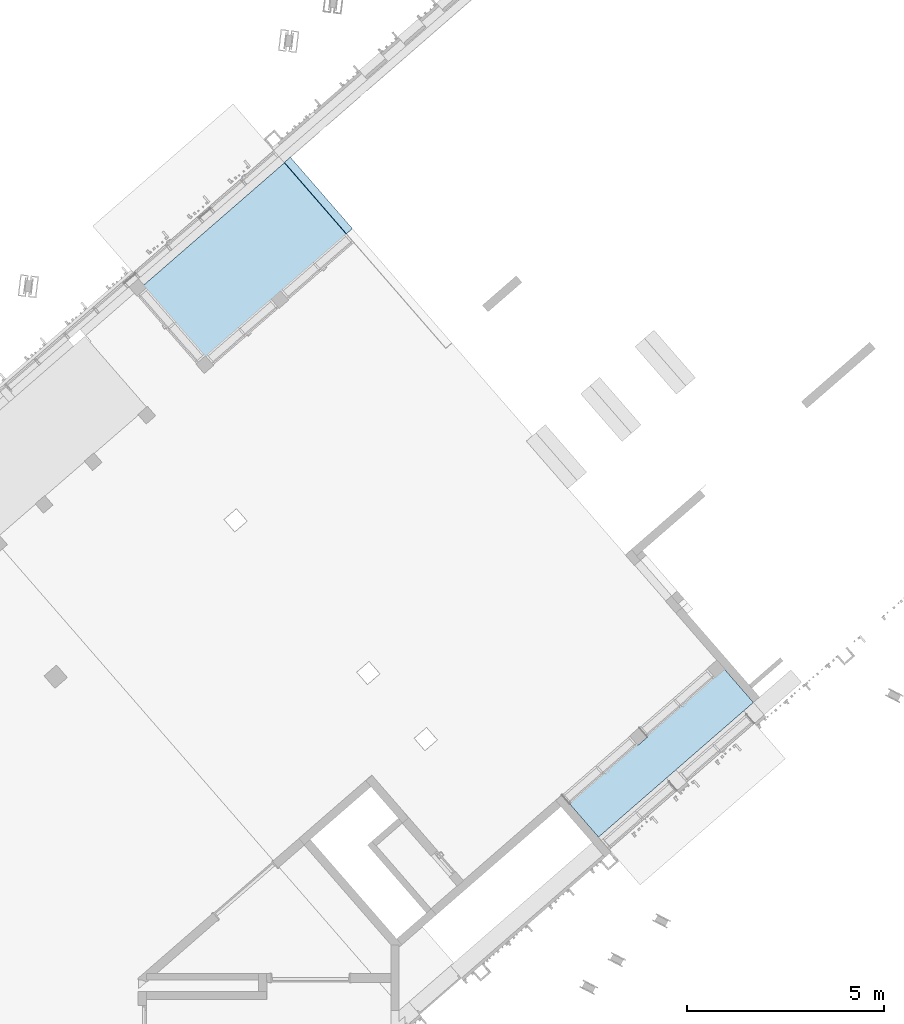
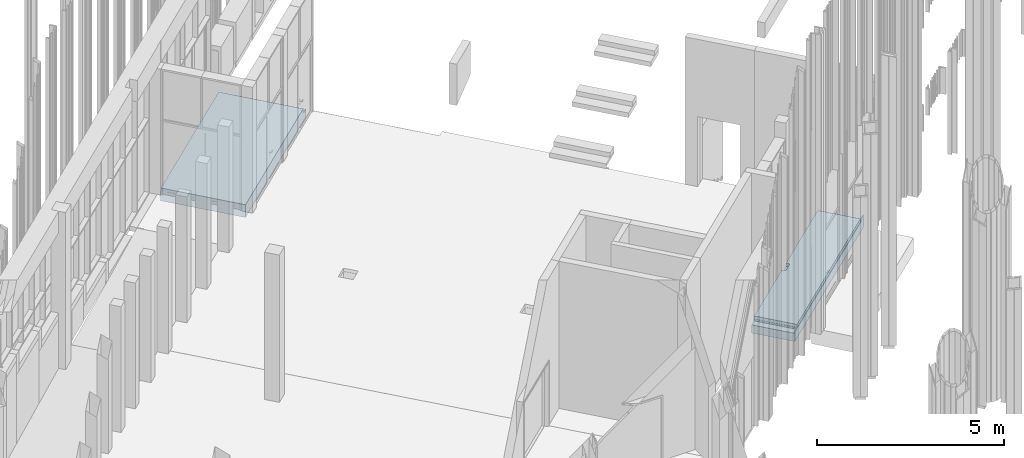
# One storey, part 81 of 390: 2 slabs.
"""IFC2X3 building model written with IfcOpenShell, lengths in millimetres."""

from ifc_helpers import new_model, entity, si_unit, converted_unit, derived_unit, money_unit, direction, frame, origin_with_axes, place, context, subcontext, project, spatial, faceted_brep, material, material_list, type_object, element, save


model = new_model("IFC2X3")

# Units and contexts
model_context = context("Model", 3, precision=1e-05, world=origin_with_axes(), true_north=direction((0.0, 1.0)))
body_context = subcontext(model_context, "Body", "Model", "MODEL_VIEW")
ifc_project = project(units=[si_unit("LENGTHUNIT", "METRE", prefix="MILLI"), si_unit("AREAUNIT", "SQUARE_METRE"), si_unit("VOLUMEUNIT", "CUBIC_METRE"), converted_unit("PLANEANGLEUNIT", "DEGREE", entity("IfcPlaneAngleMeasure", 0.0174532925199), si_unit("PLANEANGLEUNIT", "RADIAN"), dimensions=[0, 0, 0, 0, 0, 0, 0]), si_unit("SOLIDANGLEUNIT", "STERADIAN"), money_unit("EUR"), converted_unit("TIMEUNIT", "Year", entity("IfcTimeMeasure", 31556926.0), si_unit("TIMEUNIT", "SECOND"), dimensions=[0, 0, 1, 0, 0, 0, 0]), si_unit("MASSUNIT", "GRAM", prefix="KILO"), si_unit("THERMODYNAMICTEMPERATUREUNIT", "DEGREE_CELSIUS"), si_unit("LUMINOUSINTENSITYUNIT", "LUMEN"), si_unit("ENERGYUNIT", "JOULE", prefix="MEGA"), derived_unit("THERMALCONDUCTANCEUNIT", [(si_unit("POWERUNIT", "WATT"), 1), (si_unit("LENGTHUNIT", "METRE"), -1), (si_unit("THERMODYNAMICTEMPERATUREUNIT", "KELVIN"), -1)]), derived_unit("SPECIFICHEATCAPACITYUNIT", [(si_unit("ENERGYUNIT", "JOULE"), 1), (si_unit("MASSUNIT", "GRAM", prefix="KILO"), -1), (si_unit("THERMODYNAMICTEMPERATUREUNIT", "KELVIN"), -1)]), derived_unit("MASSDENSITYUNIT", [(si_unit("MASSUNIT", "GRAM", prefix="KILO"), 1), (si_unit("VOLUMEUNIT", "CUBIC_METRE"), -1)])], contexts=[model_context])

# Site, building, storey
site_placement = place(None, origin_with_axes())
site = spatial("IfcSite", under=ifc_project, at=site_placement, Name="Site", CompositionType="ELEMENT")
building_placement = place(site_placement, origin_with_axes())
building = spatial("IfcBuilding", under=site, at=building_placement, Name="Building", CompositionType="ELEMENT")
storey_placement = place(building_placement, origin_with_axes())
storey = spatial("IfcBuildingStorey", under=building, at=storey_placement, Name="1 korrus", CompositionType="ELEMENT", Elevation=0.0)

# Slabs
ifc_material_1 = material(Name="Puit - Põrand")
ifc_material_2 = material(Name="Betoon")
ifc_material_3 = material(Name="00_mineraalvillaplaat - jäik")
ifc_material_4 = material(Name="Soojustus - Plastik Kõva")
ifc_material_5 = material(Name="Raudbetoon - Konstruktsioon")
ifc_material_list_1 = material_list([ifc_material_1, ifc_material_1, ifc_material_2, ifc_material_2, ifc_material_3, ifc_material_4, ifc_material_5])
slab_type = type_object("IfcSlabType", Name="VL-01", PredefinedType="FLOOR")
slab_1_placement = place(storey_placement, frame((143603.283695, 71757.9693438, 0.0), z_axis=(0.0, 0.0, 1.0), x_axis=(1.0, 0.0, 0.0)))
element("IfcSlab", 1, at=slab_1_placement, inside=storey, type_object=slab_type, material=ifc_material_list_1, Name="VL-01", PredefinedType="FLOOR", context=body_context, shape_type="Brep", body=[
    faceted_brep([(1951.3932173, 1550.56882359, 0.0), (1879.22672718, 1633.58687454, 0.0), (158.489011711, 137.772396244, 0.0), (952.322193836, -775.427922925, 0.0), (944.77599639, -781.989789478, 0.0), (952.323296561, -775.429029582, 0.0), (2672.6396844, 720.017356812, 0.0), (2914.1468785, 929.956100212, 0.0), (4635.30764315, 2426.13649127, 0.0), (4880.58846686, 2639.35559682, 0.0), (4086.75233108, 3552.55960921, 0.0), (2120.73379264, 1843.52576405, 0.0), (2192.90028379, 1760.50771192, 0.0), (1951.3932173, 1550.56882359, -20.0), (1879.22672718, 1633.58687454, -20.0), (158.489011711, 137.772396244, -20.0), (952.321973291, -775.427701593, -20.0), (944.773444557, -781.986853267, -20.0), (4880.58846686, 2639.35559682, -20.0), (4086.75233108, 3552.55960921, -20.0), (2120.73379264, 1843.52576405, -20.0), (2192.90028379, 1760.50771192, -20.0)], [[[0, 1, 2, 3, 4, 5, 6, 7, 8, 9, 10, 11, 12]], [[1, 0, 13, 14]], [[1, 14, 15, 2]], [[15, 16, 3, 2]], [[16, 17, 4, 3]], [[17, 18, 9, 8, 7, 6, 5, 4]], [[10, 9, 18, 19]], [[20, 11, 10, 19]], [[12, 11, 20, 21]], [[0, 12, 21, 13]], [[21, 20, 19, 18, 17, 16, 15, 14, 13]]]),
    faceted_brep([(4880.58846686, 2639.35559682, 0.0), (4887.14905257, 2631.80849703, 0.0), (5045.63344507, 2769.58622249, 0.0), (5039.0728519, 2777.13331535, 0.0), (4887.14905257, 2631.80849703, -20.0), (4880.58846686, 2639.35559682, -20.0), (5045.63344507, 2769.58622249, -20.0), (5039.0728519, 2777.13331535, -20.0)], [[[0, 1, 2, 3]], [[4, 1, 0, 5]], [[1, 4, 6, 2]], [[7, 3, 2, 6]], [[5, 0, 3, 7]], [[4, 5, 7, 6]]]),
    faceted_brep([(1951.3932173, 1550.56882359, -20.0), (1879.22672718, 1633.58687454, -20.0), (158.489011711, 137.772396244, -20.0), (952.321973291, -775.427701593, -20.0), (944.77599639, -781.989789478, -20.0), (4880.58846686, 2639.35559682, -20.0), (4086.75233108, 3552.55960921, -20.0), (2120.73379264, 1843.52576405, -20.0), (2192.90028379, 1760.50771192, -20.0), (1951.3932173, 1550.56882359, -100.0), (1879.22672718, 1633.58687454, -100.0), (158.489011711, 137.772396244, -100.0), (952.321091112, -775.426816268, -100.0), (944.773444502, -781.986853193, -99.9999991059), (4880.58846686, 2639.35559682, -100.0), (4086.75233108, 3552.55960921, -100.0), (2120.73379264, 1843.52576405, -100.0), (2192.90028379, 1760.50771192, -100.0)], [[[0, 1, 2, 3, 4, 5, 6, 7, 8]], [[1, 0, 9, 10]], [[1, 10, 11, 2]], [[11, 12, 3, 2]], [[12, 13, 4, 3]], [[13, 14, 5, 4]], [[6, 5, 14, 15]], [[16, 7, 6, 15]], [[8, 7, 16, 17]], [[0, 8, 17, 9]], [[17, 16, 15, 14, 13, 12, 11, 10, 9]]]),
    faceted_brep([(4880.58846686, 2639.35559682, -20.0), (4887.14905257, 2631.80849703, -20.0), (5045.63344507, 2769.58622249, -20.0), (5039.0728519, 2777.13331535, -20.0), (4887.14905257, 2631.80849703, -100.0), (4880.58846686, 2639.35559682, -100.0), (5045.63344507, 2769.58622249, -100.0), (5039.0728519, 2777.13331535, -100.0)], [[[0, 1, 2, 3]], [[4, 1, 0, 5]], [[1, 4, 6, 2]], [[7, 3, 2, 6]], [[5, 0, 3, 7]], [[4, 5, 7, 6]]]),
    faceted_brep([(944.773444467, -781.986853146, -99.9999991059), (793.831531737, -913.198663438, -99.9999991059), (800.392117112, -920.745753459, -100.0), (5045.63344507, 2769.58622249, -100.0), (5039.0728519, 2777.13331535, -100.0), (4888.13093576, 2645.92150966, -100.0), (4094.29942688, 3559.12019951, -100.0), (150.941915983, 131.211806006, -100.0), (944.773444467, -781.986853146, -130.0), (793.831531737, -913.198663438, -130.0), (800.392117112, -920.745753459, -130.0), (5045.63344507, 2769.58622249, -130.0), (5039.0728519, 2777.13331535, -130.0), (4888.13093576, 2645.92150966, -130.0), (4094.29942688, 3559.12019951, -130.0), (150.941915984, 131.211806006, -130.0)], [[[0, 1, 2, 3, 4, 5, 6, 7]], [[1, 0, 8, 9]], [[1, 9, 10, 2]], [[10, 11, 3, 2]], [[12, 4, 3, 11]], [[5, 4, 12, 13]], [[6, 5, 13, 14]], [[15, 7, 6, 14]], [[0, 7, 15, 8]], [[8, 15, 14, 13, 12, 11, 10, 9]]]),
    faceted_brep([(944.773444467, -781.986853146, -130.0), (793.831531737, -913.198663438, -130.0), (800.392117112, -920.745753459, -130.0), (5045.63344507, 2769.58622249, -130.0), (5039.0728519, 2777.13331535, -130.0), (4888.13093576, 2645.92150966, -130.0), (4094.29942688, 3559.12019951, -130.0), (150.941915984, 131.211806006, -130.0), (944.773444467, -781.986853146, -150.0), (793.831531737, -913.198663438, -150.0), (800.392117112, -920.745753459, -150.0), (5045.63344507, 2769.58622249, -150.0), (5039.0728519, 2777.13331535, -150.0), (4888.13093576, 2645.92150966, -150.0), (4094.29942688, 3559.12019951, -150.0), (150.941915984, 131.211806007, -150.0)], [[[0, 1, 2, 3, 4, 5, 6, 7]], [[1, 0, 8, 9]], [[1, 9, 10, 2]], [[10, 11, 3, 2]], [[12, 4, 3, 11]], [[5, 4, 12, 13]], [[6, 5, 13, 14]], [[15, 7, 6, 14]], [[0, 7, 15, 8]], [[8, 15, 14, 13, 12, 11, 10, 9]]]),
    faceted_brep([(0.0, 0.0, -415.0), (800.392117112, -920.745753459, -415.0), (800.392117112, -920.745753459, -150.0), (0.0, 0.0, -150.0), (4245.24134377, 3690.33200631, -415.0), (5045.63344507, 2769.58622249, -415.0), (5045.63344507, 2769.58622249, -150.0), (4245.24134377, 3690.33200631, -150.0)], [[[0, 1, 2, 3]], [[0, 4, 5, 1]], [[1, 5, 6, 2]], [[3, 2, 6, 7]], [[4, 0, 3, 7]], [[5, 4, 7, 6]]]),
])
ifc_material_list_2 = material_list([ifc_material_1, ifc_material_2, ifc_material_3, ifc_material_4, ifc_material_5])
slab_2_placement = place(storey_placement, frame((134587.722026, 83173.300017, 0.0), z_axis=(0.0, 0.0, 1.0), x_axis=(1.0, 0.0, 0.0)))
element("IfcSlab", 2, at=slab_2_placement, inside=storey, type_object=slab_type, material=ifc_material_list_2, Name="VL-01", PredefinedType="FLOOR", context=body_context, shape_type="Brep", body=[
    faceted_brep([(3569.7763125, 3103.15919964, -20.0), (2001.79522548, 4906.91504303, -20.0), (2001.79522548, 4906.91504303, 0.000199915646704), (3569.7763125, 3103.15919964, -4.4751757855e-07), (0.0, 0.0, -20.0), (-1567.90426692, 1803.82251817, -20.0), (-1567.90426692, 1803.82251817, 0.000199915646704), (0.0, 0.0, 0.0)], [[[0, 1, 2, 3]], [[4, 5, 1, 0]], [[5, 6, 2, 1]], [[3, 2, 6, 7]], [[4, 0, 3, 7]], [[7, 6, 5, 4]]]),
    faceted_brep([(2001.79522548, 4906.91504303, -100.0), (2001.79522548, 4906.91504303, -20.0), (3569.7763125, 3103.15919964, -20.0), (3569.7763125, 3103.15919964, -100.0), (-1567.90426692, 1803.82251817, -20.0), (-1567.90426692, 1803.82251817, -100.0), (0.0, 0.0, -20.0), (0.0, 0.0, -100.0)], [[[0, 1, 2, 3]], [[4, 1, 0, 5]], [[1, 4, 6, 2]], [[3, 2, 6, 7]], [[5, 0, 3, 7]], [[4, 5, 7, 6]]]),
    faceted_brep([(3577.32340376, 3109.71978597, -130.0), (3577.32340376, 3109.71978597, -100.0), (0.0, 0.0, -100.0), (0.0, 0.0, -130.0), (2002.78182328, 4921.02262615, -100.0), (2002.7818234, 4921.02262625, -130.0), (-1574.4644806, 1811.36982919, -100.0), (-1574.4644806, 1811.36982919, -130.0)], [[[0, 1, 2, 3]], [[4, 1, 0, 5]], [[1, 4, 6, 2]], [[7, 3, 2, 6]], [[5, 0, 3, 7]], [[4, 5, 7, 6]]]),
    faceted_brep([(3577.32340394, 3109.71978612, -150.0), (3577.32340376, 3109.71978597, -130.0), (0.0, 0.0, -130.0), (0.0, 0.0, -150.0), (2002.7818234, 4921.02262625, -130.0), (2009.34241638, 4913.47552777, -150.0), (2002.78182348, 4921.02262632, -150.0), (-1574.4644806, 1811.36982919, -130.0), (-1574.4644806, 1811.36982919, -150.0)], [[[0, 1, 2, 3]], [[4, 1, 0, 5, 6]], [[1, 4, 7, 2]], [[8, 3, 2, 7]], [[5, 0, 3, 8, 6]], [[4, 6, 8, 7]]]),
    faceted_brep([(0.0, 0.0, -415.0), (3728.26529403, 3240.93156911, -415.0), (3728.26529403, 3240.93156911, -150.0), (0.0, 0.0, -150.0), (-1574.4644806, 1811.36982919, -415.0), (2153.72361975, 5052.23432914, -415.0), (2153.72361975, 5052.23432914, -150.0), (-1574.4644806, 1811.36982919, -150.0)], [[[0, 1, 2, 3]], [[0, 4, 5, 1]], [[1, 5, 6, 2]], [[3, 2, 6, 7]], [[4, 0, 3, 7]], [[5, 4, 7, 6]]]),
])

save(model, "model.ifc")
